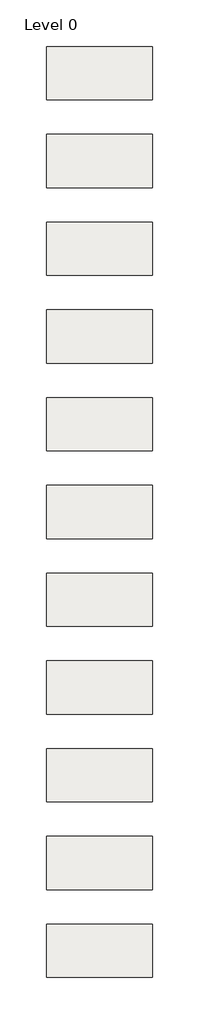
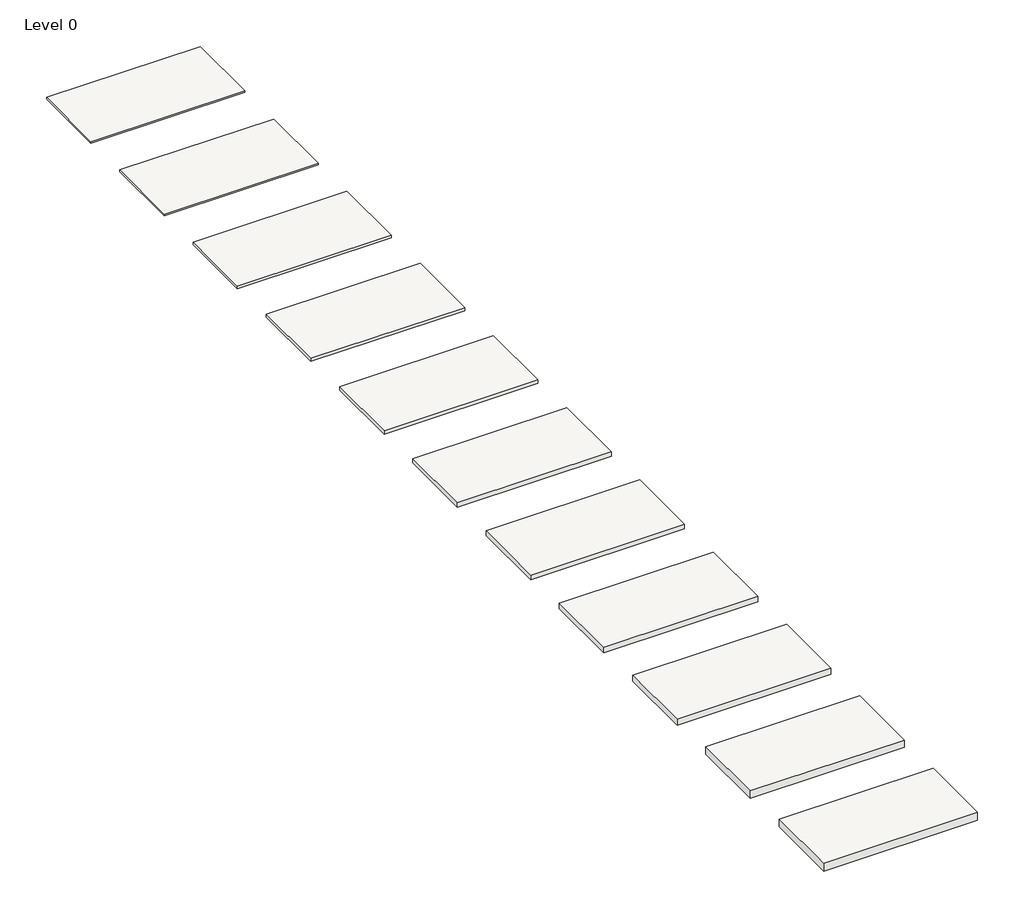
# One storey, incomplete: 11 coverings.
"""IFC4 building model written with IfcOpenShell, lengths in millimetres."""

from ifc_helpers import new_model, si_unit, origin, origin_with_axes, place, context, project, spatial, polyline, outline, extrude, element, save

model = new_model("IFC4")

# Units and contexts
model_context = context("Model", 3, world=origin())
ifc_project = project(units=[si_unit("LENGTHUNIT", "METRE", prefix="MILLI")], contexts=[model_context])

# Site, building, storey
site = spatial("IfcSite", under=ifc_project)
building = spatial("IfcBuilding", under=site)
storey = spatial("IfcBuildingStorey", under=building, Name="Level 0", Elevation=0.0)

# Coverings
placement = place(None, origin())
element("IfcCovering", 1, ObjectType="Kingspan Kooltherm® K10 Soffit Board - 25mm", at=placement, inside=storey, context=model_context, shape_type="SweptSolid", body=[
    extrude(outline(polyline([(-4725.8872773, 6236.9817231), (-4725.8872773, 5036.9817231), (-7125.8872773, 5036.9817231), (-7125.8872773, 6236.9817231), (-4725.8872773, 6236.9817231)])), origin_with_axes(), (0.0, 0.0, 1.0), 25.0),
])
element("IfcCovering", 2, ObjectType="Kingspan Kooltherm® K10 Soffit Board - 30mm", at=placement, inside=storey, context=model_context, shape_type="SweptSolid", body=[
    extrude(outline(polyline([(-4725.8872773, 4256.9816598), (-4725.8872773, 3056.9816598), (-7125.8872773, 3056.9816598), (-7125.8872773, 4256.9816598), (-4725.8872773, 4256.9816598)])), origin_with_axes(), (0.0, 0.0, 1.0), 30.0),
])
element("IfcCovering", 3, ObjectType="Kingspan Kooltherm® K10 Soffit Board - 40mm", at=placement, inside=storey, context=model_context, shape_type="SweptSolid", body=[
    extrude(outline(polyline([(-4725.8872773, 2276.9815964), (-4725.8872773, 1076.9815964), (-7125.8872773, 1076.9815964), (-7125.8872773, 2276.9815964), (-4725.8872773, 2276.9815964)])), origin_with_axes(), (0.0, 0.0, 1.0), 40.0),
])
element("IfcCovering", 4, ObjectType="Kingspan Kooltherm® K10 Soffit Board - 50mm", at=placement, inside=storey, context=model_context, shape_type="SweptSolid", body=[
    extrude(outline(polyline([(-4725.8872773, 296.981533), (-4725.8872773, -903.018467), (-7125.8872773, -903.018467), (-7125.8872773, 296.981533), (-4725.8872773, 296.981533)])), origin_with_axes(), (0.0, 0.0, 1.0), 50.0),
])
element("IfcCovering", 5, ObjectType="Kingspan Kooltherm® K10 Soffit Board - 60mm", at=placement, inside=storey, context=model_context, shape_type="SweptSolid", body=[
    extrude(outline(polyline([(-4725.8872773, -1683.0185303), (-4725.8872773, -2883.0185303), (-7125.8872773, -2883.0185303), (-7125.8872773, -1683.0185303), (-4725.8872773, -1683.0185303)])), origin_with_axes(), (0.0, 0.0, 1.0), 60.0),
])
element("IfcCovering", 6, ObjectType="Kingspan Kooltherm® K10 Soffit Board - 70mm", at=placement, inside=storey, context=model_context, shape_type="SweptSolid", body=[
    extrude(outline(polyline([(-4725.8872773, -3663.0185937), (-4725.8872773, -4863.0185937), (-7125.8872773, -4863.0185937), (-7125.8872773, -3663.0185937), (-4725.8872773, -3663.0185937)])), origin_with_axes(), (0.0, 0.0, 1.0), 70.0),
])
element("IfcCovering", 7, ObjectType="Kingspan Kooltherm® K10 Soffit Board - 80mm", at=placement, inside=storey, context=model_context, shape_type="SweptSolid", body=[
    extrude(outline(polyline([(-4725.8872773, -5643.018657), (-4725.8872773, -6843.018657), (-7125.8872773, -6843.018657), (-7125.8872773, -5643.018657), (-4725.8872773, -5643.018657)])), origin_with_axes(), (0.0, 0.0, 1.0), 80.0),
])
element("IfcCovering", 8, ObjectType="Kingspan Kooltherm® K10 Soffit Board - 90mm", at=placement, inside=storey, context=model_context, shape_type="SweptSolid", body=[
    extrude(outline(polyline([(-4725.8872773, -7623.0187204), (-4725.8872773, -8823.0187204), (-7125.8872773, -8823.0187204), (-7125.8872773, -7623.0187204), (-4725.8872773, -7623.0187204)])), origin_with_axes(), (0.0, 0.0, 1.0), 90.0),
])
element("IfcCovering", 9, ObjectType="Kingspan Kooltherm® K10 Soffit Board - 100mm", at=placement, inside=storey, context=model_context, shape_type="SweptSolid", body=[
    extrude(outline(polyline([(-4725.8872773, -9603.0187838), (-4725.8872773, -10803.0187838), (-7125.8872773, -10803.0187838), (-7125.8872773, -9603.0187838), (-4725.8872773, -9603.0187838)])), origin_with_axes(), (0.0, 0.0, 1.0), 100.0),
])
element("IfcCovering", 10, ObjectType="Kingspan Kooltherm® K10 Soffit Board - 120mm", at=placement, inside=storey, context=model_context, shape_type="SweptSolid", body=[
    extrude(outline(polyline([(-4725.8872773, -11583.0188471), (-4725.8872773, -12783.0188471), (-7125.8872773, -12783.0188471), (-7125.8872773, -11583.0188471), (-4725.8872773, -11583.0188471)])), origin_with_axes(), (0.0, 0.0, 1.0), 120.0),
])
element("IfcCovering", 11, ObjectType="Kingspan Kooltherm® K10 Soffit Board - 130mm", at=placement, inside=storey, context=model_context, shape_type="SweptSolid", body=[
    extrude(outline(polyline([(-4725.8872773, -13563.0189105), (-4725.8872773, -14763.0189105), (-7125.8872773, -14763.0189105), (-7125.8872773, -13563.0189105), (-4725.8872773, -13563.0189105)])), origin_with_axes(), (0.0, 0.0, 1.0), 130.0),
])

save(model, "model.ifc")
